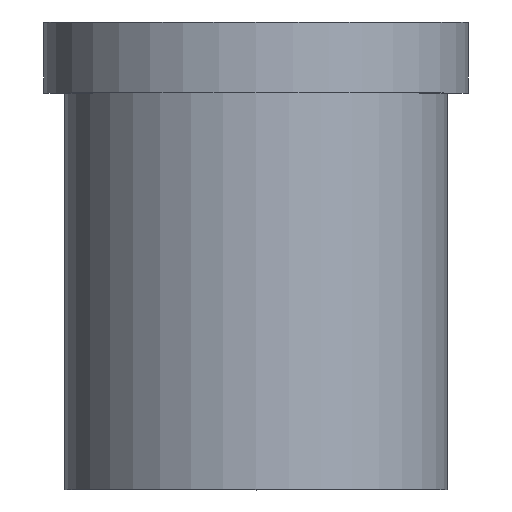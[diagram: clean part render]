
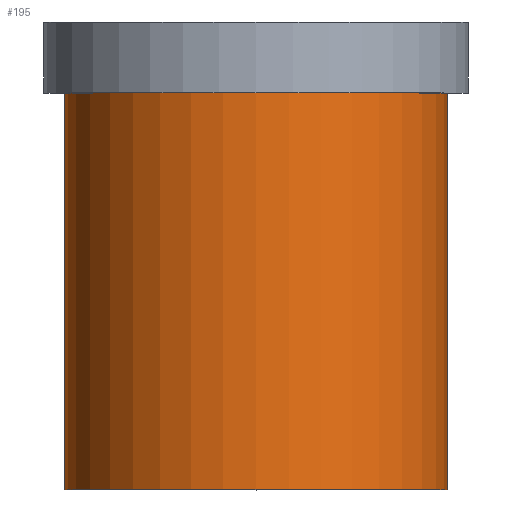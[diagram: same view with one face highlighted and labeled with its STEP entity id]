
A CAD part, top view. The second image highlights one B-rep face of the part: STEP entity #195.
In plain terms, the highlighted cylindrical face has radius 27 mm (diameter 54 mm), a full revolution.
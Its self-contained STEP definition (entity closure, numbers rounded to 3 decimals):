
#32=ORIENTED_EDGE('',*,*,#50,.T.);
#33=ORIENTED_EDGE('',*,*,#49,.F.);
#49=EDGE_CURVE('',#59,#59,#69,.T.);
#50=EDGE_CURVE('',#60,#60,#70,.T.);
#59=VERTEX_POINT('',#280);
#60=VERTEX_POINT('',#283);
#69=CIRCLE('',#213,27.);
#70=CIRCLE('',#215,27.);
#82=EDGE_LOOP('',(#32));
#83=EDGE_LOOP('',(#33));
#102=FACE_BOUND('',#82,.T.);
#103=FACE_BOUND('',#83,.T.);
#117=CYLINDRICAL_SURFACE('',#214,27.);
#195=ADVANCED_FACE('',(#102,#103),#117,.T.);
#213=AXIS2_PLACEMENT_3D('',#279,#241,#242);
#214=AXIS2_PLACEMENT_3D('',#281,#243,#244);
#215=AXIS2_PLACEMENT_3D('',#282,#245,#246);
#241=DIRECTION('',(0.,-1.,0.));
#242=DIRECTION('',(0.,0.,-1.));
#243=DIRECTION('',(0.,-1.,0.));
#244=DIRECTION('',(0.,0.,-1.));
#245=DIRECTION('',(0.,-1.,0.));
#246=DIRECTION('',(0.,0.,-1.));
#279=CARTESIAN_POINT('',(0.,0.,0.));
#280=CARTESIAN_POINT('',(0.,0.,-27.));
#281=CARTESIAN_POINT('',(0.,0.,0.));
#282=CARTESIAN_POINT('',(0.,56.,0.));
#283=CARTESIAN_POINT('',(0.,56.,-27.));
